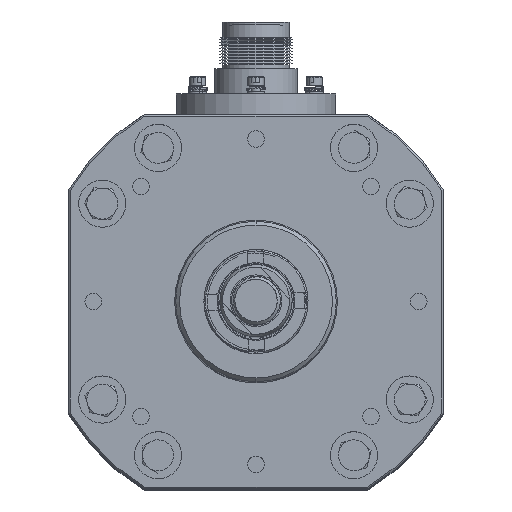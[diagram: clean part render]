
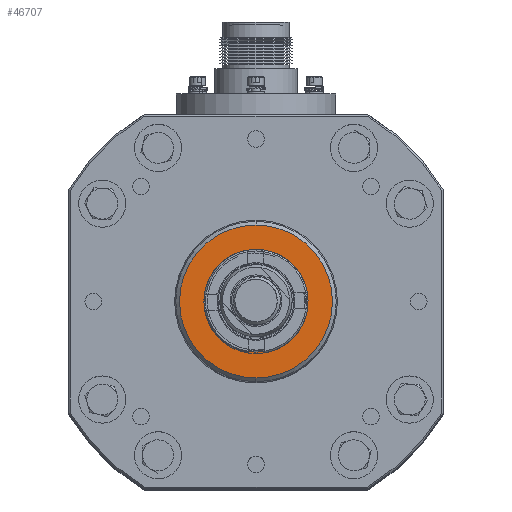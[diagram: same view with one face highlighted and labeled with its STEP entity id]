
A CAD part, top view. The second image highlights one B-rep face of the part: STEP entity #46707.
In plain terms, the highlighted planar face has unit normal (0, 0, 1).
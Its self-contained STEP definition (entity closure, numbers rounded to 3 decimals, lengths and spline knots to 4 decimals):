
#67 = AXIS2_PLACEMENT_3D ( 'NONE', #76226, #26809, #58943 ) ;
#1530 = EDGE_CURVE ( 'NONE', #52471, #5324, #46468, .T. ) ;
#2500 = DIRECTION ( 'NONE',  ( 0., -1., 0. ) ) ;
#4802 = DIRECTION ( 'NONE',  ( 0., -1., 0. ) ) ;
#5324 = VERTEX_POINT ( 'NONE', #30166 ) ;
#6698 = EDGE_CURVE ( 'NONE', #34237, #59179, #65962, .T. ) ;
#7757 = EDGE_CURVE ( 'NONE', #5324, #52471, #51558, .T. ) ;
#8195 = EDGE_LOOP ( 'NONE', ( #70352, #41733 ) ) ;
#9590 = DIRECTION ( 'NONE',  ( 0., 0., 1. ) ) ;
#10396 = FACE_BOUND ( 'NONE', #67008, .T. ) ;
#15357 = FACE_OUTER_BOUND ( 'NONE', #8195, .T. ) ;
#15690 = ORIENTED_EDGE ( 'NONE', *, *, #28359, .T. ) ;
#18390 = DIRECTION ( 'NONE',  ( 0., 0., -1. ) ) ;
#21951 = PLANE ( 'NONE',  #34150 ) ;
#26809 = DIRECTION ( 'NONE',  ( 0., 0., -1. ) ) ;
#28359 = EDGE_CURVE ( 'NONE', #59179, #34237, #58076, .T. ) ;
#28941 = DIRECTION ( 'NONE',  ( 0., -1., 0. ) ) ;
#29545 = CARTESIAN_POINT ( 'NONE',  ( 0., 0., 2.7559 ) ) ;
#30166 = CARTESIAN_POINT ( 'NONE',  ( 0., -1.8504, 2.7559 ) ) ;
#34150 = AXIS2_PLACEMENT_3D ( 'NONE', #42149, #9590, #28941 ) ;
#34237 = VERTEX_POINT ( 'NONE', #81249 ) ;
#39878 = ORIENTED_EDGE ( 'NONE', *, *, #6698, .T. ) ;
#41733 = ORIENTED_EDGE ( 'NONE', *, *, #7757, .T. ) ;
#42149 = CARTESIAN_POINT ( 'NONE',  ( 0., 0., 2.7559 ) ) ;
#42562 = AXIS2_PLACEMENT_3D ( 'NONE', #29545, #60863, #4802 ) ;
#46468 = CIRCLE ( 'NONE', #42562, 1.8504 ) ;
#46707 = ADVANCED_FACE ( 'NONE', ( #10396, #15357 ), #21951, .T. ) ;
#49747 = CARTESIAN_POINT ( 'NONE',  ( 0., 1.2244, 2.7559 ) ) ;
#50124 = AXIS2_PLACEMENT_3D ( 'NONE', #80637, #18390, #74421 ) ;
#51558 = CIRCLE ( 'NONE', #60709, 1.8504 ) ;
#52471 = VERTEX_POINT ( 'NONE', #79934 ) ;
#58076 = CIRCLE ( 'NONE', #67, 1.2244 ) ;
#58943 = DIRECTION ( 'NONE',  ( 0., -1., 0. ) ) ;
#59179 = VERTEX_POINT ( 'NONE', #49747 ) ;
#60709 = AXIS2_PLACEMENT_3D ( 'NONE', #63527, #77512, #2500 ) ;
#60863 = DIRECTION ( 'NONE',  ( 0., 0., 1. ) ) ;
#63527 = CARTESIAN_POINT ( 'NONE',  ( 0., 0., 2.7559 ) ) ;
#65962 = CIRCLE ( 'NONE', #50124, 1.2244 ) ;
#67008 = EDGE_LOOP ( 'NONE', ( #39878, #15690 ) ) ;
#70352 = ORIENTED_EDGE ( 'NONE', *, *, #1530, .T. ) ;
#74421 = DIRECTION ( 'NONE',  ( 0., -1., 0. ) ) ;
#76226 = CARTESIAN_POINT ( 'NONE',  ( 0., 0., 2.7559 ) ) ;
#77512 = DIRECTION ( 'NONE',  ( 0., 0., 1. ) ) ;
#79934 = CARTESIAN_POINT ( 'NONE',  ( 0., 1.8504, 2.7559 ) ) ;
#80637 = CARTESIAN_POINT ( 'NONE',  ( 0., 0., 2.7559 ) ) ;
#81249 = CARTESIAN_POINT ( 'NONE',  ( 0., -1.2244, 2.7559 ) ) ;
